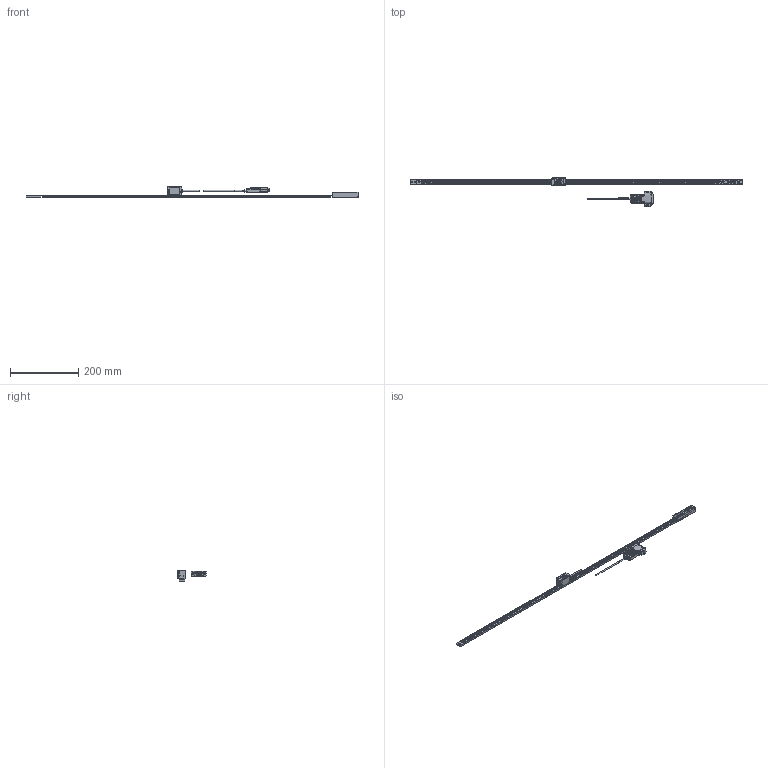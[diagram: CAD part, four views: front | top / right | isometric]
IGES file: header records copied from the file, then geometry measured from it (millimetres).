
Start section: Elysium IGES Interface
Global section: file name: 89H\\Utsu119s\kiyo_cad\data\3D\ABS ST1300\HP掲載用_201803\ST1300-Dタイプ\PKG\ST1300-800D.igs; native system: Creo Elements/Direct Modeling 18.1B  29-Sep-2012; preprocessor: Creo Element/Direct IGES_3D V2.2; author: Unknown; organization: Unknown; date: 20180301.112753; units: millimetre
Bounding box: 973 x 83 x 30.1 mm (x, y, z)
Volume: 102753.3 mm3; surface area: 72997 mm2
Topology: 3 solids, 10 shells, 3547 faces, 9738 edges, 6354 vertices
Faces by surface type: bspline 3547
